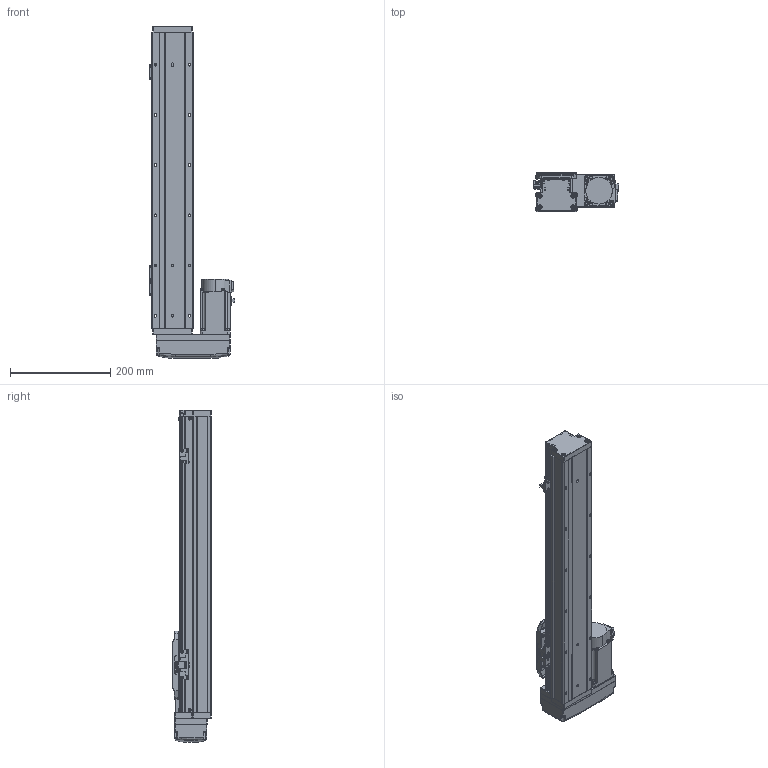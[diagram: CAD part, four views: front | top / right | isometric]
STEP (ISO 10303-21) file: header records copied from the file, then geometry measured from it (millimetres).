
FILE_DESCRIPTION (( 'STEP AP203' ), '1' );
FILE_NAME ('GTH8-400-BR-M20-C4.step', '2022-09-23T01:10:04', ( '微软用户' ), ( '微软中国' ), 'SwSTEP 2.0', 'SolidWorks 2020', '' );
FILE_SCHEMA (( 'CONFIG_CONTROL_DESIGN' ));
Length unit declared in the file: millimetre
Products named in the file (18): hg-kn43j_-s100_; GTH80-003; GBT 70.1-M4×16; CTHA86-015-1_CTHA86-015-2; GTH80-004; GTH80-028; CTHA86-033_M40B; GTH80-006; GTH50-024; GTH8-400-BR-M20-C4; GTH80-013; GTH50-023; GBT 70.3-M3℅6; GBT96.1-2002 3×0.8; GTH80-022; BTH-M3X5X6; GTH80-001_400; GBT 70.1-M3℅6
Assembly tree (57 placements, depth 2):
  GTH8-400-BR-M20-C4
    GTH80-001_400
    GTH80-003
    GTH80-004
    GTH80-006
    GTH80-013
    GBT 70.3-M3℅6  x4
    GTH80-022
    GBT 70.1-M3℅6  x14
    GBT 70.1-M4×16  x8
    GTH80-028  x2
    GTH50-024  x3
    GTH50-023  x3
    GBT96.1-2002 3×0.8  x6
    BTH-M3X5X6  x8
    hg-kn43j_-s100_
    CTHA86-015-1_CTHA86-015-2
    CTHA86-033_M40B
Bounding box: 169.7 x 78 x 661 mm (x, y, z)
Volume: 3545844.4 mm3; surface area: 396059.8 mm2
Topology: 59 solids, 59 shells, 2232 faces, 5151 edges, 3155 vertices
Faces by surface type: plane 1187, cylinder 603, cone 260, torus 166, bspline 8, sphere 8
Entity records: 40626 total; most frequent: CARTESIAN_POINT 7145, DIRECTION 6593, ORIENTED_EDGE 6120, EDGE_CURVE 3060, AXIS2_PLACEMENT_3D 2301, VECTOR 1991, LINE 1991, VERTEX_POINT 1930
